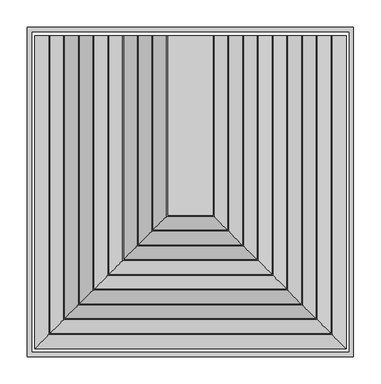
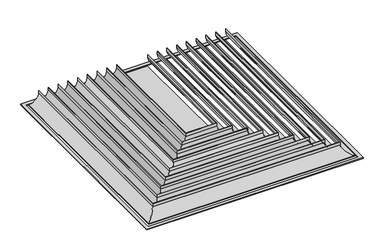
"""IFC4 building model written with IfcOpenShell, lengths in millimetres: air terminal geometry."""

from ifc_helpers import new_model, si_unit, frame, origin, place, context, project, spatial, polyline, circle_curve, ellipse_curve, outline, extrude, source, transform, mapped, element, save
from ifc_brep_helpers import plane_surface, cylinder_surface, revolved_surface, advanced_brep


def air_terminal_0466a51b(model_context):
    return source(origin(), model_context, "Body", "SolidModel", [
        extrude(outline(polyline([(42.0, 578.8125856), (42.0, 249.1874144), (-42.0, 249.1874144), (-42.0, 578.8125856), (42.0, 578.8125856)])), frame((0.0, 0.0, 1.0), z_axis=(0.0, 0.0, 1.0), x_axis=(1.0, 0.0, 0.0)), (0.0, 0.0, 1.0), 1.0025269),
        advanced_brep(
        [(-285.6874144, 578.8125856, 1.0), (-285.6874144, 578.8125856, 2.0025269), (-259.0, 578.8125856, 26.77286), (-259.0, 578.8125856, 35.0), (-258.0, 578.8125856, 35.0), (-258.0, 578.8125856, 26.7), (285.6874144, 5.5, 2.0025269), (285.6874144, 5.5, 1.0), (285.6874144, 578.8125856, 1.0), (285.6874144, 578.8125856, 2.0025269), (259.0, 32.1874144, 26.77286), (259.0, 578.8125856, 26.77286), (259.0, 32.1874144, 35.0), (259.0, 578.8125856, 35.0), (258.0, 33.1874144, 26.7), (258.0, 33.1874144, 35.0), (258.0, 578.8125856, 35.0), (258.0, 578.8125856, 26.7), (-285.6874144, 5.5, 1.0), (-285.6874144, 5.5, 2.0025269), (-259.0, 32.1874144, 26.77286), (-259.0, 32.1874144, 35.0), (-258.0, 33.1874144, 35.0), (-258.0, 33.1874144, 26.7)],
        [
            (0, 1),
            (1, 2, circle_curve(frame((-287.7874144, 578.8125856, 31.0266548), z_axis=(0.0, -1.0, 0.0), x_axis=(1.0, 0.0, 0.0)), 29.1)),
            (2, 3),
            (3, 4),
            (4, 5),
            (5, 0, circle_curve(frame((-287.7874144, 578.8125856, 31.0266548), z_axis=(0.0, 1.0, 0.0), x_axis=(1.0, 0.0, 0.0)), 30.1)),
            (6, 7),
            (7, 8),
            (8, 9),
            (9, 6),
            (10, 6, ellipse_curve(frame((287.7874144, 3.4, 31.0266548), z_axis=(-0.7071067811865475, -0.7071067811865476, 0.0), x_axis=(-0.7071067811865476, 0.7071067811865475, 0.0)), 41.1536147, 29.1)),
            (9, 11, circle_curve(frame((287.7874144, 578.8125856, 31.0266548), z_axis=(0.0, 1.0, 0.0), x_axis=(-1.0, 0.0, 0.0)), 29.1)),
            (11, 10),
            (12, 10),
            (11, 13),
            (13, 12),
            (14, 15),
            (15, 16),
            (16, 17),
            (17, 14),
            (7, 14, ellipse_curve(frame((287.7874144, 3.4, 31.0266548), z_axis=(0.7071067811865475, 0.7071067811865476, 0.0), x_axis=(0.7071067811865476, -0.7071067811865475, 0.0)), 42.5678282, 30.1)),
            (17, 8, circle_curve(frame((287.7874144, 578.8125856, 31.0266548), z_axis=(0.0, -1.0, 0.0), x_axis=(-1.0, 0.0, 0.0)), 30.1)),
            (0, 18),
            (18, 19),
            (19, 1),
            (19, 20, ellipse_curve(frame((-287.7874144, 3.4, 31.0266548), z_axis=(0.7071067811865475, -0.7071067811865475, 0.0), x_axis=(-0.7071067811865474, -0.7071067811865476, 0.0)), 41.1536147, 29.1)),
            (20, 2),
            (20, 21),
            (21, 3),
            (21, 12),
            (13, 16),
            (15, 22),
            (22, 4),
            (22, 23),
            (23, 5),
            (23, 18, ellipse_curve(frame((-287.7874144, 3.4, 31.0266548), z_axis=(-0.7071067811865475, 0.7071067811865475, 0.0), x_axis=(0.7071067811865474, 0.7071067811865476, 0.0)), 42.5678282, 30.1)),
            (18, 7),
            (6, 19),
            (10, 20),
            (14, 23),
        ],
        [
            plane_surface(frame((-258.0, 578.8125856, 0.0), z_axis=(0.0, 1.0, 0.0), x_axis=(0.0, 0.0, 1.0))),
            plane_surface(frame((285.6874144, 5.5, 1.0), z_axis=(1.0, 0.0, 0.0), x_axis=(0.0, 1.0, 0.0))),
            revolved_surface(polyline([(258.68741439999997, 578.8125856, 31.0266548), (258.68741439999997, -25.70000002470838, 31.0266548)]), (287.7874144, 33.1874144, 31.0266548), (0.0, 1.0, 0.0)),
            plane_surface(frame((259.0, 32.1874144, 26.77286), z_axis=(1.0, 0.0, 0.0), x_axis=(0.0, 1.0, 0.0))),
            plane_surface(frame((258.0, 33.1874144, 35.0), z_axis=(-1.0, 0.0, 0.0), x_axis=(0.0, 1.0, 0.0))),
            cylinder_surface(frame((287.7874144, 33.1874144, 31.0266548), z_axis=(0.0, -1.0, 0.0), x_axis=(-1.0, 0.0, 0.0)), 30.1),
            plane_surface(frame((-285.6874144, 578.8125856, 1.0), z_axis=(-1.0, 0.0, 0.0), x_axis=(0.0, -1.0, 0.0))),
            revolved_surface(polyline([(-258.68741439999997, -25.7000000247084, 31.0266548), (-258.68741439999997, 578.8125856, 31.0266548)]), (-287.7874144, 578.8125856, 31.0266548), (0.0, -1.0, 0.0)),
            plane_surface(frame((-259.0, 578.8125856, 26.77286), z_axis=(-1.0, 0.0, 0.0), x_axis=(0.0, -1.0, 0.0))),
            plane_surface(frame((-259.0, 578.8125856, 35.0), z_axis=(0.0, 0.0, 1.0), x_axis=(0.0, -1.0, 0.0))),
            plane_surface(frame((-258.0, 578.8125856, 35.0), z_axis=(1.0, 0.0, 0.0), x_axis=(0.0, -1.0, 0.0))),
            cylinder_surface(frame((-287.7874144, 578.8125856, 31.0266548), z_axis=(0.0, 1.0, 0.0), x_axis=(1.0, 0.0, 0.0)), 30.1),
            plane_surface(frame((258.0, 578.8125856, 0.0), z_axis=(0.0, 1.0, 0.0), x_axis=(0.0, 0.0, 1.0))),
            plane_surface(frame((-285.6874144, 5.5, 1.0), z_axis=(0.0, -1.0, 0.0), x_axis=(1.0, 0.0, 0.0))),
            revolved_surface(polyline([(316.88741442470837, 32.5, 31.0266548), (-316.88741442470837, 32.5, 31.0266548)]), (-258.0, 3.4, 31.0266548), (1.0, 0.0, 0.0)),
            plane_surface(frame((-259.0, 32.1874144, 26.77286), z_axis=(0.0, -1.0, 0.0), x_axis=(1.0, 0.0, 0.0))),
            plane_surface(frame((-258.0, 33.1874144, 35.0), z_axis=(0.0, 1.0, 0.0), x_axis=(1.0, 0.0, 0.0))),
            cylinder_surface(frame((-258.0, 3.4, 31.0266548), z_axis=(-1.0, 0.0, 0.0), x_axis=(0.0, 1.0, 0.0)), 30.1),
        ],
        [
            (0, [[1, 2, 3, 4, 5, 6]]),
            (1, [[7, 8, 9, 10]]),
            (2, [[11, -10, 12, 13]]),
            (3, [[14, -13, 15, 16]]),
            (4, [[17, 18, 19, 20]]),
            (5, [[21, -20, 22, -8]]),
            (6, [[-1, 23, 24, 25]]),
            (7, [[-2, -25, 26, 27]]),
            (8, [[-3, -27, 28, 29]]),
            (9, [[-4, -29, 30, -16, 31, -18, 32, 33]]),
            (10, [[-5, -33, 34, 35]]),
            (11, [[-6, -35, 36, -23]]),
            (12, [[-22, -19, -31, -15, -12, -9]]),
            (13, [[-24, 37, -7, 38]]),
            (14, [[-26, -38, -11, 39]]),
            (15, [[-28, -39, -14, -30]]),
            (16, [[-34, -32, -17, 40]]),
            (17, [[-36, -40, -21, -37]]),
        ],
    ),
        advanced_brep(
        [(-258.6874144, 578.8125856, 1.0), (-258.6874144, 578.8125856, 2.0025269), (-232.0, 578.8125856, 26.77286), (-232.0, 578.8125856, 35.0), (-231.0, 578.8125856, 35.0), (-231.0, 578.8125856, 26.7), (-258.6874144, 32.5, 1.0), (-258.6874144, 32.5, 2.0025269), (-232.0, 59.1874144, 26.77286), (-232.0, 59.1874144, 35.0), (232.0, 59.1874144, 35.0), (232.0, 578.8125856, 35.0), (231.0, 578.8125856, 35.0), (231.0, 60.1874144, 35.0), (-231.0, 60.1874144, 35.0), (-231.0, 60.1874144, 26.7), (258.6874144, 32.5, 1.0), (258.6874144, 32.5, 2.0025269), (232.0, 59.1874144, 26.77286), (231.0, 60.1874144, 26.7), (258.6874144, 578.8125856, 1.0), (258.6874144, 578.8125856, 2.0025269), (232.0, 578.8125856, 26.77286), (231.0, 578.8125856, 26.7)],
        [
            (0, 1),
            (1, 2, circle_curve(frame((-260.7874144, 578.8125856, 31.0266548), z_axis=(0.0, -1.0, 0.0), x_axis=(1.0, 0.0, 0.0)), 29.1)),
            (2, 3),
            (3, 4),
            (4, 5),
            (5, 0, circle_curve(frame((-260.7874144, 578.8125856, 31.0266548), z_axis=(0.0, 1.0, 0.0), x_axis=(1.0, 0.0, 0.0)), 30.1)),
            (0, 6),
            (6, 7),
            (7, 1),
            (7, 8, ellipse_curve(frame((-260.7874144, 30.4, 31.0266548), z_axis=(0.7071067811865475, -0.7071067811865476, 0.0), x_axis=(-0.7071067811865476, -0.7071067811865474, 0.0)), 41.1536147, 29.1)),
            (8, 2),
            (8, 9),
            (9, 3),
            (9, 10),
            (10, 11),
            (11, 12),
            (12, 13),
            (13, 14),
            (14, 4),
            (14, 15),
            (15, 5),
            (15, 6, ellipse_curve(frame((-260.7874144, 30.4, 31.0266548), z_axis=(-0.7071067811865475, 0.7071067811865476, 0.0), x_axis=(0.7071067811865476, 0.7071067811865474, 0.0)), 42.5678282, 30.1)),
            (6, 16),
            (16, 17),
            (17, 7),
            (17, 18, ellipse_curve(frame((260.7874144, 30.4, 31.0266548), z_axis=(0.7071067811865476, 0.7071067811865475, 0.0), x_axis=(0.7071067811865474, -0.7071067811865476, 0.0)), 41.1536147, 29.1)),
            (18, 8),
            (18, 10),
            (13, 19),
            (19, 15),
            (19, 16, ellipse_curve(frame((260.7874144, 30.4, 31.0266548), z_axis=(-0.7071067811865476, -0.7071067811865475, 0.0), x_axis=(-0.7071067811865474, 0.7071067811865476, 0.0)), 42.5678282, 30.1)),
            (16, 20),
            (20, 21),
            (21, 17),
            (21, 22, circle_curve(frame((260.7874144, 578.8125856, 31.0266548), z_axis=(0.0, 1.0, 0.0), x_axis=(-1.0, 0.0, 0.0)), 29.1)),
            (22, 18),
            (22, 11),
            (12, 23),
            (23, 19),
            (23, 20, circle_curve(frame((260.7874144, 578.8125856, 31.0266548), z_axis=(0.0, -1.0, 0.0), x_axis=(-1.0, 0.0, 0.0)), 30.1)),
        ],
        [
            plane_surface(frame((-231.0, 578.8125856, 0.0), z_axis=(0.0, 1.0, 0.0), x_axis=(0.0, 0.0, 1.0))),
            plane_surface(frame((-258.6874144, 578.8125856, 1.0), z_axis=(-1.0, 0.0, 0.0), x_axis=(0.0, -1.0, 0.0))),
            revolved_surface(polyline([(-231.6874144, 1.2999999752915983, 31.0266548), (-231.6874144, 578.8125856, 31.0266548)]), (-260.7874144, 578.8125856, 31.0266548), (0.0, -1.0, 0.0)),
            plane_surface(frame((-232.0, 578.8125856, 26.77286), z_axis=(-1.0, 0.0, 0.0), x_axis=(0.0, -1.0, 0.0))),
            plane_surface(frame((-232.0, 578.8125856, 35.0), z_axis=(0.0, 0.0, 1.0), x_axis=(0.0, -1.0, 0.0))),
            plane_surface(frame((-231.0, 578.8125856, 35.0), z_axis=(1.0, 0.0, 0.0), x_axis=(0.0, -1.0, 0.0))),
            cylinder_surface(frame((-260.7874144, 578.8125856, 31.0266548), z_axis=(0.0, 1.0, 0.0), x_axis=(1.0, 0.0, 0.0)), 30.1),
            plane_surface(frame((-258.6874144, 32.5, 1.0), z_axis=(0.0, -1.0, 0.0), x_axis=(1.0, 0.0, 0.0))),
            revolved_surface(polyline([(289.88741442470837, 59.5, 31.0266548), (-289.88741442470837, 59.5, 31.0266548)]), (-231.0, 30.4, 31.0266548), (1.0, 0.0, 0.0)),
            plane_surface(frame((-232.0, 59.1874144, 26.77286), z_axis=(0.0, -1.0, 0.0), x_axis=(1.0, 0.0, 0.0))),
            plane_surface(frame((-231.0, 60.1874144, 35.0), z_axis=(0.0, 1.0, 0.0), x_axis=(1.0, 0.0, 0.0))),
            cylinder_surface(frame((-231.0, 30.4, 31.0266548), z_axis=(-1.0, 0.0, 0.0), x_axis=(0.0, 1.0, 0.0)), 30.1),
            plane_surface(frame((258.6874144, 32.5, 1.0), z_axis=(1.0, 0.0, 0.0), x_axis=(0.0, 1.0, 0.0))),
            revolved_surface(polyline([(231.6874144, 578.8125856, 31.0266548), (231.6874144, 1.2999999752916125, 31.0266548)]), (260.7874144, 60.1874144, 31.0266548), (0.0, 1.0, 0.0)),
            plane_surface(frame((232.0, 59.1874144, 26.77286), z_axis=(1.0, 0.0, 0.0), x_axis=(0.0, 1.0, 0.0))),
            plane_surface(frame((231.0, 60.1874144, 35.0), z_axis=(-1.0, 0.0, 0.0), x_axis=(0.0, 1.0, 0.0))),
            cylinder_surface(frame((260.7874144, 60.1874144, 31.0266548), z_axis=(0.0, -1.0, 0.0), x_axis=(-1.0, 0.0, 0.0)), 30.1),
            plane_surface(frame((231.0, 578.8125856, 0.0), z_axis=(0.0, 1.0, 0.0), x_axis=(0.0, 0.0, 1.0))),
        ],
        [
            (0, [[1, 2, 3, 4, 5, 6]]),
            (1, [[-1, 7, 8, 9]]),
            (2, [[-2, -9, 10, 11]]),
            (3, [[-3, -11, 12, 13]]),
            (4, [[-4, -13, 14, 15, 16, 17, 18, 19]]),
            (5, [[-5, -19, 20, 21]]),
            (6, [[-6, -21, 22, -7]]),
            (7, [[-8, 23, 24, 25]]),
            (8, [[-10, -25, 26, 27]]),
            (9, [[-12, -27, 28, -14]]),
            (10, [[-20, -18, 29, 30]]),
            (11, [[-22, -30, 31, -23]]),
            (12, [[-24, 32, 33, 34]]),
            (13, [[-26, -34, 35, 36]]),
            (14, [[-28, -36, 37, -15]]),
            (15, [[-29, -17, 38, 39]]),
            (16, [[-31, -39, 40, -32]]),
            (17, [[-40, -38, -16, -37, -35, -33]]),
        ],
    ),
        advanced_brep(
        [(231.6874144, 578.8125856, 1.0), (204.0, 578.8125856, 26.7), (204.0, 578.8125856, 35.0), (205.0, 578.8125856, 35.0), (205.0, 578.8125856, 26.77286), (231.6874144, 578.8125856, 2.0025269), (231.6874144, 59.5, 1.0), (204.0, 87.1874144, 26.7), (204.0, 87.1874144, 35.0), (-204.0, 87.1874144, 35.0), (-204.0, 578.8125856, 35.0), (-205.0, 578.8125856, 35.0), (-205.0, 86.1874144, 35.0), (205.0, 86.1874144, 35.0), (205.0, 86.1874144, 26.77286), (231.6874144, 59.5, 2.0025269), (-231.6874144, 59.5, 1.0), (-204.0, 87.1874144, 26.7), (-205.0, 86.1874144, 26.77286), (-231.6874144, 59.5, 2.0025269), (-231.6874144, 578.8125856, 1.0), (-204.0, 578.8125856, 26.7), (-205.0, 578.8125856, 26.77286), (-231.6874144, 578.8125856, 2.0025269)],
        [
            (0, 1, circle_curve(frame((233.7874144, 578.8125856, 31.0266548), z_axis=(0.0, 1.0, 0.0), x_axis=(1.0, 0.0, 0.0)), 30.1)),
            (1, 2),
            (2, 3),
            (3, 4),
            (4, 5, circle_curve(frame((233.7874144, 578.8125856, 31.0266548), z_axis=(0.0, -1.0, 0.0), x_axis=(1.0, 0.0, 0.0)), 29.1)),
            (5, 0),
            (0, 6),
            (6, 7, ellipse_curve(frame((233.7874144, 57.4, 31.0266548), z_axis=(0.7071067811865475, 0.7071067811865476, 0.0), x_axis=(-0.7071067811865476, 0.7071067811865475, 0.0)), 42.5678282, 30.1)),
            (7, 1),
            (7, 8),
            (8, 2),
            (8, 9),
            (9, 10),
            (10, 11),
            (11, 12),
            (12, 13),
            (13, 3),
            (13, 14),
            (14, 4),
            (14, 15, ellipse_curve(frame((233.7874144, 57.4, 31.0266548), z_axis=(-0.7071067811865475, -0.7071067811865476, 0.0), x_axis=(0.7071067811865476, -0.7071067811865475, 0.0)), 41.1536147, 29.1)),
            (15, 5),
            (15, 6),
            (6, 16),
            (16, 17, ellipse_curve(frame((-233.7874144, 57.4, 31.0266548), z_axis=(0.7071067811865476, -0.7071067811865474, 0.0), x_axis=(0.7071067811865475, 0.7071067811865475, 0.0)), 42.5678282, 30.1)),
            (17, 7),
            (17, 9),
            (12, 18),
            (18, 14),
            (18, 19, ellipse_curve(frame((-233.7874144, 57.4, 31.0266548), z_axis=(-0.7071067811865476, 0.7071067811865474, 0.0), x_axis=(-0.7071067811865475, -0.7071067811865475, 0.0)), 41.1536147, 29.1)),
            (19, 15),
            (19, 16),
            (16, 20),
            (20, 21, circle_curve(frame((-233.7874144, 578.8125856, 31.0266548), z_axis=(0.0, -1.0, 0.0), x_axis=(-1.0, 0.0, 0.0)), 30.1)),
            (21, 17),
            (21, 10),
            (11, 22),
            (22, 18),
            (22, 23, circle_curve(frame((-233.7874144, 578.8125856, 31.0266548), z_axis=(0.0, 1.0, 0.0), x_axis=(-1.0, 0.0, 0.0)), 29.1)),
            (23, 19),
            (23, 20),
        ],
        [
            plane_surface(frame((204.0, 578.8125856, 0.0), z_axis=(0.0, 1.0, 0.0), x_axis=(0.0, 0.0, 1.0))),
            cylinder_surface(frame((233.7874144, 578.8125856, 31.0266548), z_axis=(0.0, 1.0, 0.0), x_axis=(1.0, 0.0, 0.0)), 30.1),
            plane_surface(frame((204.0, 578.8125856, 26.7), z_axis=(-1.0, 0.0, 0.0), x_axis=(0.0, -1.0, 0.0))),
            plane_surface(frame((204.0, 578.8125856, 35.0), z_axis=(0.0, 0.0, 1.0), x_axis=(0.0, -1.0, 0.0))),
            plane_surface(frame((205.0, 578.8125856, 35.0), z_axis=(1.0, 0.0, 0.0), x_axis=(0.0, -1.0, 0.0))),
            revolved_surface(polyline([(262.8874144, 28.2999999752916, 31.0266548), (262.8874144, 578.8125856, 31.0266548)]), (233.7874144, 578.8125856, 31.0266548), (0.0, -1.0, 0.0)),
            plane_surface(frame((231.6874144, 578.8125856, 2.0025269), z_axis=(1.0, 0.0, 0.0), x_axis=(0.0, -1.0, 0.0))),
            cylinder_surface(frame((204.0, 57.4, 31.0266548), z_axis=(1.0, 0.0, 0.0), x_axis=(0.0, -1.0, 0.0)), 30.1),
            plane_surface(frame((204.0, 87.1874144, 26.7), z_axis=(0.0, 1.0, 0.0), x_axis=(-1.0, 0.0, 0.0))),
            plane_surface(frame((205.0, 86.1874144, 35.0), z_axis=(0.0, -1.0, 0.0), x_axis=(-1.0, 0.0, 0.0))),
            revolved_surface(polyline([(-262.88741442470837, 28.299999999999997, 31.0266548), (262.88741442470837, 28.299999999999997, 31.0266548)]), (204.0, 57.4, 31.0266548), (-1.0, 0.0, 0.0)),
            plane_surface(frame((231.6874144, 59.5, 2.0025269), z_axis=(0.0, -1.0, 0.0), x_axis=(-1.0, 0.0, 0.0))),
            cylinder_surface(frame((-233.7874144, 87.1874144, 31.0266548), z_axis=(0.0, -1.0, 0.0), x_axis=(-1.0, 0.0, 0.0)), 30.1),
            plane_surface(frame((-204.0, 87.1874144, 26.7), z_axis=(1.0, 0.0, 0.0), x_axis=(0.0, 1.0, 0.0))),
            plane_surface(frame((-205.0, 86.1874144, 35.0), z_axis=(-1.0, 0.0, 0.0), x_axis=(0.0, 1.0, 0.0))),
            revolved_surface(polyline([(-262.8874144, 578.8125856, 31.0266548), (-262.8874144, 28.299999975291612, 31.0266548)]), (-233.7874144, 87.1874144, 31.0266548), (0.0, 1.0, 0.0)),
            plane_surface(frame((-231.6874144, 59.5, 2.0025269), z_axis=(-1.0, 0.0, 0.0), x_axis=(0.0, 1.0, 0.0))),
            plane_surface(frame((-204.0, 578.8125856, 0.0), z_axis=(0.0, 1.0, 0.0), x_axis=(0.0, 0.0, 1.0))),
        ],
        [
            (0, [[1, 2, 3, 4, 5, 6]]),
            (1, [[-1, 7, 8, 9]]),
            (2, [[-2, -9, 10, 11]]),
            (3, [[-3, -11, 12, 13, 14, 15, 16, 17]]),
            (4, [[-4, -17, 18, 19]]),
            (5, [[-5, -19, 20, 21]]),
            (6, [[-6, -21, 22, -7]]),
            (7, [[-8, 23, 24, 25]]),
            (8, [[-10, -25, 26, -12]]),
            (9, [[-18, -16, 27, 28]]),
            (10, [[-20, -28, 29, 30]]),
            (11, [[-22, -30, 31, -23]]),
            (12, [[-24, 32, 33, 34]]),
            (13, [[-26, -34, 35, -13]]),
            (14, [[-27, -15, 36, 37]]),
            (15, [[-29, -37, 38, 39]]),
            (16, [[-31, -39, 40, -32]]),
            (17, [[-40, -38, -36, -14, -35, -33]]),
        ],
    ),
        advanced_brep(
        [(204.6874144, 578.8125856, 1.0), (177.0, 578.8125856, 26.7), (177.0, 578.8125856, 35.0), (178.0, 578.8125856, 35.0), (178.0, 578.8125856, 26.77286), (204.6874144, 578.8125856, 2.0025269), (204.6874144, 86.5, 1.0), (177.0, 114.1874144, 26.7), (177.0, 114.1874144, 35.0), (-177.0, 114.1874144, 35.0), (-177.0, 578.8125856, 35.0), (-178.0, 578.8125856, 35.0), (-178.0, 113.1874144, 35.0), (178.0, 113.1874144, 35.0), (178.0, 113.1874144, 26.77286), (204.6874144, 86.5, 2.0025269), (-204.6874144, 86.5, 1.0), (-177.0, 114.1874144, 26.7), (-178.0, 113.1874144, 26.77286), (-204.6874144, 86.5, 2.0025269), (-204.6874144, 578.8125856, 1.0), (-177.0, 578.8125856, 26.7), (-178.0, 578.8125856, 26.77286), (-204.6874144, 578.8125856, 2.0025269)],
        [
            (0, 1, circle_curve(frame((206.7874144, 578.8125856, 31.0266548), z_axis=(0.0, 1.0, 0.0), x_axis=(1.0, 0.0, 0.0)), 30.1)),
            (1, 2),
            (2, 3),
            (3, 4),
            (4, 5, circle_curve(frame((206.7874144, 578.8125856, 31.0266548), z_axis=(0.0, -1.0, 0.0), x_axis=(1.0, 0.0, 0.0)), 29.1)),
            (5, 0),
            (0, 6),
            (6, 7, ellipse_curve(frame((206.7874144, 84.4, 31.0266548), z_axis=(0.7071067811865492, 0.7071067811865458, 0.0), x_axis=(-0.7071067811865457, 0.7071067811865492, 0.0)), 42.5678282, 30.1)),
            (7, 1),
            (7, 8),
            (8, 2),
            (8, 9),
            (9, 10),
            (10, 11),
            (11, 12),
            (12, 13),
            (13, 3),
            (13, 14),
            (14, 4),
            (14, 15, ellipse_curve(frame((206.7874144, 84.4, 31.0266548), z_axis=(-0.7071067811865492, -0.7071067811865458, 0.0), x_axis=(0.7071067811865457, -0.7071067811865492, 0.0)), 41.1536147, 29.1)),
            (15, 5),
            (15, 6),
            (6, 16),
            (16, 17, ellipse_curve(frame((-206.7874144, 84.4, 31.0266548), z_axis=(0.7071067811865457, -0.7071067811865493, 0.0), x_axis=(0.7071067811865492, 0.7071067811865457, 0.0)), 42.5678282, 30.1)),
            (17, 7),
            (17, 9),
            (12, 18),
            (18, 14),
            (18, 19, ellipse_curve(frame((-206.7874144, 84.4, 31.0266548), z_axis=(-0.7071067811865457, 0.7071067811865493, 0.0), x_axis=(-0.7071067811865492, -0.7071067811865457, 0.0)), 41.1536147, 29.1)),
            (19, 15),
            (19, 16),
            (16, 20),
            (20, 21, circle_curve(frame((-206.7874144, 578.8125856, 31.0266548), z_axis=(0.0, -1.0, 0.0), x_axis=(-1.0, 0.0, 0.0)), 30.1)),
            (21, 17),
            (21, 10),
            (11, 22),
            (22, 18),
            (22, 23, circle_curve(frame((-206.7874144, 578.8125856, 31.0266548), z_axis=(0.0, 1.0, 0.0), x_axis=(-1.0, 0.0, 0.0)), 29.1)),
            (23, 19),
            (23, 20),
        ],
        [
            plane_surface(frame((177.0, 578.8125856, 0.0), z_axis=(0.0, 1.0, 0.0), x_axis=(0.0, 0.0, 1.0))),
            cylinder_surface(frame((206.7874144, 578.8125856, 31.0266548), z_axis=(0.0, 1.0, 0.0), x_axis=(1.0, 0.0, 0.0)), 30.1),
            plane_surface(frame((177.0, 578.8125856, 26.7), z_axis=(-1.0, 0.0, 0.0), x_axis=(0.0, -1.0, 0.0))),
            plane_surface(frame((177.0, 578.8125856, 35.0), z_axis=(0.0, 0.0, 1.0), x_axis=(0.0, -1.0, 0.0))),
            plane_surface(frame((178.0, 578.8125856, 35.0), z_axis=(1.0, 0.0, 0.0), x_axis=(0.0, -1.0, 0.0))),
            revolved_surface(polyline([(235.88741439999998, 55.299999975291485, 31.0266548), (235.88741439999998, 578.8125856, 31.0266548)]), (206.7874144, 578.8125856, 31.0266548), (0.0, -1.0, 0.0)),
            plane_surface(frame((204.6874144, 578.8125856, 2.0025269), z_axis=(1.0, 0.0, 0.0), x_axis=(0.0, -1.0, 0.0))),
            cylinder_surface(frame((177.0, 84.4, 31.0266548), z_axis=(1.0, 0.0, 0.0), x_axis=(0.0, -1.0, 0.0)), 30.1),
            plane_surface(frame((177.0, 114.1874144, 26.7), z_axis=(0.0, 1.0, 0.0), x_axis=(-1.0, 0.0, 0.0))),
            plane_surface(frame((178.0, 113.1874144, 35.0), z_axis=(0.0, -1.0, 0.0), x_axis=(-1.0, 0.0, 0.0))),
            revolved_surface(polyline([(-235.88741442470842, 55.300000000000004, 31.0266548), (235.8874144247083, 55.300000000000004, 31.0266548)]), (177.0, 84.4, 31.0266548), (-1.0, 0.0, 0.0)),
            plane_surface(frame((204.6874144, 86.5, 2.0025269), z_axis=(0.0, -1.0, 0.0), x_axis=(-1.0, 0.0, 0.0))),
            cylinder_surface(frame((-206.7874144, 114.1874144, 31.0266548), z_axis=(0.0, -1.0, 0.0), x_axis=(-1.0, 0.0, 0.0)), 30.1),
            plane_surface(frame((-177.0, 114.1874144, 26.7), z_axis=(1.0, 0.0, 0.0), x_axis=(0.0, 1.0, 0.0))),
            plane_surface(frame((-178.0, 113.1874144, 35.0), z_axis=(-1.0, 0.0, 0.0), x_axis=(0.0, 1.0, 0.0))),
            revolved_surface(polyline([(-235.88741439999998, 578.8125856, 31.0266548), (-235.88741439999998, 55.2999999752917, 31.0266548)]), (-206.7874144, 114.1874144, 31.0266548), (0.0, 1.0, 0.0)),
            plane_surface(frame((-204.6874144, 86.5, 2.0025269), z_axis=(-1.0, 0.0, 0.0), x_axis=(0.0, 1.0, 0.0))),
            plane_surface(frame((-177.0, 578.8125856, 0.0), z_axis=(0.0, 1.0, 0.0), x_axis=(0.0, 0.0, 1.0))),
        ],
        [
            (0, [[1, 2, 3, 4, 5, 6]]),
            (1, [[-1, 7, 8, 9]]),
            (2, [[-2, -9, 10, 11]]),
            (3, [[-3, -11, 12, 13, 14, 15, 16, 17]]),
            (4, [[-4, -17, 18, 19]]),
            (5, [[-5, -19, 20, 21]]),
            (6, [[-6, -21, 22, -7]]),
            (7, [[-8, 23, 24, 25]]),
            (8, [[-10, -25, 26, -12]]),
            (9, [[-18, -16, 27, 28]]),
            (10, [[-20, -28, 29, 30]]),
            (11, [[-22, -30, 31, -23]]),
            (12, [[-24, 32, 33, 34]]),
            (13, [[-26, -34, 35, -13]]),
            (14, [[-27, -15, 36, 37]]),
            (15, [[-29, -37, 38, 39]]),
            (16, [[-31, -39, 40, -32]]),
            (17, [[-40, -38, -36, -14, -35, -33]]),
        ],
    ),
        advanced_brep(
        [(-150.5879226, 578.8125856, 1.0), (-150.5879226, 578.8125856, 2.0025269), (-123.9005082, 578.8125856, 26.77286), (-123.9005082, 578.8125856, 35.0), (-122.9005082, 578.8125856, 35.0), (-122.9005082, 578.8125856, 26.7), (-150.5879226, 140.5994918, 1.0), (-150.5879226, 140.5994918, 2.0025269), (-123.9005082, 167.2869062, 26.77286), (-123.9005082, 167.2869062, 35.0), (123.9005082, 167.2869062, 35.0), (123.9005082, 578.8125856, 35.0), (122.9005082, 578.8125856, 35.0), (122.9005082, 168.2869062, 35.0), (-122.9005082, 168.2869062, 35.0), (-122.9005082, 168.2869062, 26.7), (150.5879226, 140.5994918, 1.0), (150.5879226, 140.5994918, 2.0025269), (123.9005082, 167.2869062, 26.77286), (122.9005082, 168.2869062, 26.7), (150.5879226, 578.8125856, 1.0), (150.5879226, 578.8125856, 2.0025269), (123.9005082, 578.8125856, 26.77286), (122.9005082, 578.8125856, 26.7)],
        [
            (0, 1),
            (1, 2, circle_curve(frame((-152.6879226, 578.8125856, 31.0266548), z_axis=(0.0, -1.0, 0.0), x_axis=(1.0, 0.0, 0.0)), 29.1)),
            (2, 3),
            (3, 4),
            (4, 5),
            (5, 0, circle_curve(frame((-152.6879226, 578.8125856, 31.0266548), z_axis=(0.0, 1.0, 0.0), x_axis=(1.0, 0.0, 0.0)), 30.1)),
            (0, 6),
            (6, 7),
            (7, 1),
            (7, 8, ellipse_curve(frame((-152.6879226, 138.4994918, 31.0266548), z_axis=(0.7071067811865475, -0.7071067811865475, 0.0), x_axis=(-0.7071067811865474, -0.7071067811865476, 0.0)), 41.1536147, 29.1)),
            (8, 2),
            (8, 9),
            (9, 3),
            (9, 10),
            (10, 11),
            (11, 12),
            (12, 13),
            (13, 14),
            (14, 4),
            (14, 15),
            (15, 5),
            (15, 6, ellipse_curve(frame((-152.6879226, 138.4994918, 31.0266548), z_axis=(-0.7071067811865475, 0.7071067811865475, 0.0), x_axis=(0.7071067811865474, 0.7071067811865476, 0.0)), 42.5678282, 30.1)),
            (6, 16),
            (16, 17),
            (17, 7),
            (17, 18, ellipse_curve(frame((152.6879226, 138.4994918, 31.0266548), z_axis=(0.7071067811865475, 0.7071067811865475, 0.0), x_axis=(0.7071067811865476, -0.7071067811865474, 0.0)), 41.1536147, 29.1)),
            (18, 8),
            (18, 10),
            (13, 19),
            (19, 15),
            (19, 16, ellipse_curve(frame((152.6879226, 138.4994918, 31.0266548), z_axis=(-0.7071067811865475, -0.7071067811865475, 0.0), x_axis=(-0.7071067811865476, 0.7071067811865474, 0.0)), 42.5678282, 30.1)),
            (16, 20),
            (20, 21),
            (21, 17),
            (21, 22, circle_curve(frame((152.6879226, 578.8125856, 31.0266548), z_axis=(0.0, 1.0, 0.0), x_axis=(-1.0, 0.0, 0.0)), 29.1)),
            (22, 18),
            (22, 11),
            (12, 23),
            (23, 19),
            (23, 20, circle_curve(frame((152.6879226, 578.8125856, 31.0266548), z_axis=(0.0, -1.0, 0.0), x_axis=(-1.0, 0.0, 0.0)), 30.1)),
        ],
        [
            plane_surface(frame((-123.0, 578.8125856, 0.0), z_axis=(0.0, 1.0, 0.0), x_axis=(0.0, 0.0, 1.0))),
            plane_surface(frame((-150.5879226, 578.8125856, 1.0), z_axis=(-1.0, 0.0, 0.0), x_axis=(0.0, -1.0, 0.0))),
            revolved_surface(polyline([(-123.58792260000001, 109.39949177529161, 31.0266548), (-123.58792260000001, 578.8125856, 31.0266548)]), (-152.6879226, 578.8125856, 31.0266548), (0.0, -1.0, 0.0)),
            plane_surface(frame((-123.9005082, 578.8125856, 26.77286), z_axis=(-1.0, 0.0, 0.0), x_axis=(0.0, -1.0, 0.0))),
            plane_surface(frame((-123.9005082, 578.8125856, 35.0), z_axis=(0.0, 0.0, 1.0), x_axis=(0.0, -1.0, 0.0))),
            plane_surface(frame((-122.9005082, 578.8125856, 35.0), z_axis=(1.0, 0.0, 0.0), x_axis=(0.0, -1.0, 0.0))),
            cylinder_surface(frame((-152.6879226, 578.8125856, 31.0266548), z_axis=(0.0, 1.0, 0.0), x_axis=(1.0, 0.0, 0.0)), 30.1),
            plane_surface(frame((-150.5879226, 140.5994918, 1.0), z_axis=(0.0, -1.0, 0.0), x_axis=(1.0, 0.0, 0.0))),
            revolved_surface(polyline([(181.78792262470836, 167.59949179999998, 31.0266548), (-181.7879226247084, 167.59949179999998, 31.0266548)]), (-123.0, 138.4994918, 31.0266548), (1.0, 0.0, 0.0)),
            plane_surface(frame((-123.9005082, 167.2869062, 26.77286), z_axis=(0.0, -1.0, 0.0), x_axis=(1.0, 0.0, 0.0))),
            plane_surface(frame((-122.9005082, 168.2869062, 35.0), z_axis=(0.0, 1.0, 0.0), x_axis=(1.0, 0.0, 0.0))),
            cylinder_surface(frame((-123.0, 138.4994918, 31.0266548), z_axis=(-1.0, 0.0, 0.0), x_axis=(0.0, 1.0, 0.0)), 30.1),
            plane_surface(frame((150.5879226, 140.5994918, 1.0), z_axis=(1.0, 0.0, 0.0), x_axis=(0.0, 1.0, 0.0))),
            revolved_surface(polyline([(123.58792260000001, 578.8125856, 31.0266548), (123.58792260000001, 109.39949177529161, 31.0266548)]), (152.6879226, 168.1874144, 31.0266548), (0.0, 1.0, 0.0)),
            plane_surface(frame((123.9005082, 167.2869062, 26.77286), z_axis=(1.0, 0.0, 0.0), x_axis=(0.0, 1.0, 0.0))),
            plane_surface(frame((122.9005082, 168.2869062, 35.0), z_axis=(-1.0, 0.0, 0.0), x_axis=(0.0, 1.0, 0.0))),
            cylinder_surface(frame((152.6879226, 168.1874144, 31.0266548), z_axis=(0.0, -1.0, 0.0), x_axis=(-1.0, 0.0, 0.0)), 30.1),
            plane_surface(frame((123.0, 578.8125856, 0.0), z_axis=(0.0, 1.0, 0.0), x_axis=(0.0, 0.0, 1.0))),
        ],
        [
            (0, [[1, 2, 3, 4, 5, 6]]),
            (1, [[-1, 7, 8, 9]]),
            (2, [[-2, -9, 10, 11]]),
            (3, [[-3, -11, 12, 13]]),
            (4, [[-4, -13, 14, 15, 16, 17, 18, 19]]),
            (5, [[-5, -19, 20, 21]]),
            (6, [[-6, -21, 22, -7]]),
            (7, [[-8, 23, 24, 25]]),
            (8, [[-10, -25, 26, 27]]),
            (9, [[-12, -27, 28, -14]]),
            (10, [[-20, -18, 29, 30]]),
            (11, [[-22, -30, 31, -23]]),
            (12, [[-24, 32, 33, 34]]),
            (13, [[-26, -34, 35, 36]]),
            (14, [[-28, -36, 37, -15]]),
            (15, [[-29, -17, 38, 39]]),
            (16, [[-31, -39, 40, -32]]),
            (17, [[-40, -38, -16, -37, -35, -33]]),
        ],
    ),
        advanced_brep(
        [(-177.6874144, 578.8125856, 1.0), (-177.6874144, 578.8125856, 2.0025269), (-151.0, 578.8125856, 26.77286), (-151.0, 578.8125856, 35.0), (-150.0, 578.8125856, 35.0), (-150.0, 578.8125856, 26.7), (-177.6874144, 113.5, 1.0), (-177.6874144, 113.5, 2.0025269), (-151.0, 140.1874144, 26.77286), (-151.0, 140.1874144, 35.0), (151.0, 140.1874144, 35.0), (151.0, 578.8125856, 35.0), (150.0, 578.8125856, 35.0), (150.0, 141.1874144, 35.0), (-150.0, 141.1874144, 35.0), (-150.0, 141.1874144, 26.7), (177.6874144, 113.5, 1.0), (177.6874144, 113.5, 2.0025269), (151.0, 140.1874144, 26.77286), (150.0, 141.1874144, 26.7), (177.6874144, 578.8125856, 1.0), (177.6874144, 578.8125856, 2.0025269), (151.0, 578.8125856, 26.77286), (150.0, 578.8125856, 26.7)],
        [
            (0, 1),
            (1, 2, circle_curve(frame((-179.7874144, 578.8125856, 31.0266548), z_axis=(0.0, -1.0, 0.0), x_axis=(1.0, 0.0, 0.0)), 29.1)),
            (2, 3),
            (3, 4),
            (4, 5),
            (5, 0, circle_curve(frame((-179.7874144, 578.8125856, 31.0266548), z_axis=(0.0, 1.0, 0.0), x_axis=(1.0, 0.0, 0.0)), 30.1)),
            (0, 6),
            (6, 7),
            (7, 1),
            (7, 8, ellipse_curve(frame((-179.7874144, 111.4, 31.0266548), z_axis=(0.7071067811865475, -0.7071067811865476, 0.0), x_axis=(-0.7071067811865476, -0.7071067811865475, 0.0)), 41.1536147, 29.1)),
            (8, 2),
            (8, 9),
            (9, 3),
            (9, 10),
            (10, 11),
            (11, 12),
            (12, 13),
            (13, 14),
            (14, 4),
            (14, 15),
            (15, 5),
            (15, 6, ellipse_curve(frame((-179.7874144, 111.4, 31.0266548), z_axis=(-0.7071067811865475, 0.7071067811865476, 0.0), x_axis=(0.7071067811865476, 0.7071067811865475, 0.0)), 42.5678282, 30.1)),
            (6, 16),
            (16, 17),
            (17, 7),
            (17, 18, ellipse_curve(frame((179.7874144, 111.4, 31.0266548), z_axis=(0.7071067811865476, 0.7071067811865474, 0.0), x_axis=(0.7071067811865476, -0.7071067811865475, 0.0)), 41.1536147, 29.1)),
            (18, 8),
            (18, 10),
            (13, 19),
            (19, 15),
            (19, 16, ellipse_curve(frame((179.7874144, 111.4, 31.0266548), z_axis=(-0.7071067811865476, -0.7071067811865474, 0.0), x_axis=(-0.7071067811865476, 0.7071067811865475, 0.0)), 42.5678282, 30.1)),
            (16, 20),
            (20, 21),
            (21, 17),
            (21, 22, circle_curve(frame((179.7874144, 578.8125856, 31.0266548), z_axis=(0.0, 1.0, 0.0), x_axis=(-1.0, 0.0, 0.0)), 29.1)),
            (22, 18),
            (22, 11),
            (12, 23),
            (23, 19),
            (23, 20, circle_curve(frame((179.7874144, 578.8125856, 31.0266548), z_axis=(0.0, -1.0, 0.0), x_axis=(-1.0, 0.0, 0.0)), 30.1)),
        ],
        [
            plane_surface(frame((-150.0, 578.8125856, 0.0), z_axis=(0.0, 1.0, 0.0), x_axis=(0.0, 0.0, 1.0))),
            plane_surface(frame((-177.6874144, 578.8125856, 1.0), z_axis=(-1.0, 0.0, 0.0), x_axis=(0.0, -1.0, 0.0))),
            revolved_surface(polyline([(-150.6874144, 82.2999999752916, 31.0266548), (-150.6874144, 578.8125856, 31.0266548)]), (-179.7874144, 578.8125856, 31.0266548), (0.0, -1.0, 0.0)),
            plane_surface(frame((-151.0, 578.8125856, 26.77286), z_axis=(-1.0, 0.0, 0.0), x_axis=(0.0, -1.0, 0.0))),
            plane_surface(frame((-151.0, 578.8125856, 35.0), z_axis=(0.0, 0.0, 1.0), x_axis=(0.0, -1.0, 0.0))),
            plane_surface(frame((-150.0, 578.8125856, 35.0), z_axis=(1.0, 0.0, 0.0), x_axis=(0.0, -1.0, 0.0))),
            cylinder_surface(frame((-179.7874144, 578.8125856, 31.0266548), z_axis=(0.0, 1.0, 0.0), x_axis=(1.0, 0.0, 0.0)), 30.1),
            plane_surface(frame((-177.6874144, 113.5, 1.0), z_axis=(0.0, -1.0, 0.0), x_axis=(1.0, 0.0, 0.0))),
            revolved_surface(polyline([(208.88741442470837, 140.5, 31.0266548), (-208.88741442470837, 140.5, 31.0266548)]), (-150.0, 111.4, 31.0266548), (1.0, 0.0, 0.0)),
            plane_surface(frame((-151.0, 140.1874144, 26.77286), z_axis=(0.0, -1.0, 0.0), x_axis=(1.0, 0.0, 0.0))),
            plane_surface(frame((-150.0, 141.1874144, 35.0), z_axis=(0.0, 1.0, 0.0), x_axis=(1.0, 0.0, 0.0))),
            cylinder_surface(frame((-150.0, 111.4, 31.0266548), z_axis=(-1.0, 0.0, 0.0), x_axis=(0.0, 1.0, 0.0)), 30.1),
            plane_surface(frame((177.6874144, 113.5, 1.0), z_axis=(1.0, 0.0, 0.0), x_axis=(0.0, 1.0, 0.0))),
            revolved_surface(polyline([(150.6874144, 578.8125856, 31.0266548), (150.6874144, 82.29999997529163, 31.0266548)]), (179.7874144, 141.1874144, 31.0266548), (0.0, 1.0, 0.0)),
            plane_surface(frame((151.0, 140.1874144, 26.77286), z_axis=(1.0, 0.0, 0.0), x_axis=(0.0, 1.0, 0.0))),
            plane_surface(frame((150.0, 141.1874144, 35.0), z_axis=(-1.0, 0.0, 0.0), x_axis=(0.0, 1.0, 0.0))),
            cylinder_surface(frame((179.7874144, 141.1874144, 31.0266548), z_axis=(0.0, -1.0, 0.0), x_axis=(-1.0, 0.0, 0.0)), 30.1),
            plane_surface(frame((150.0, 578.8125856, 0.0), z_axis=(0.0, 1.0, 0.0), x_axis=(0.0, 0.0, 1.0))),
        ],
        [
            (0, [[1, 2, 3, 4, 5, 6]]),
            (1, [[-1, 7, 8, 9]]),
            (2, [[-2, -9, 10, 11]]),
            (3, [[-3, -11, 12, 13]]),
            (4, [[-4, -13, 14, 15, 16, 17, 18, 19]]),
            (5, [[-5, -19, 20, 21]]),
            (6, [[-6, -21, 22, -7]]),
            (7, [[-8, 23, 24, 25]]),
            (8, [[-10, -25, 26, 27]]),
            (9, [[-12, -27, 28, -14]]),
            (10, [[-20, -18, 29, 30]]),
            (11, [[-22, -30, 31, -23]]),
            (12, [[-24, 32, 33, 34]]),
            (13, [[-26, -34, 35, 36]]),
            (14, [[-28, -36, 37, -15]]),
            (15, [[-29, -17, 38, 39]]),
            (16, [[-31, -39, 40, -32]]),
            (17, [[-40, -38, -16, -37, -35, -33]]),
        ],
    ),
        advanced_brep(
        [(123.6874144, 578.8125856, 1.0), (96.0, 578.8125856, 26.7), (96.0, 578.8125856, 35.0), (97.0, 578.8125856, 35.0), (97.0, 578.8125856, 26.77286), (123.6874144, 578.8125856, 2.0025269), (123.6874144, 167.5, 1.0), (96.0, 195.1874144, 26.7), (96.0, 195.1874144, 35.0), (-96.0, 195.1874144, 35.0), (-96.0, 578.8125856, 35.0), (-97.0, 578.8125856, 35.0), (-97.0, 194.1874144, 35.0), (97.0, 194.1874144, 35.0), (97.0, 194.1874144, 26.77286), (123.6874144, 167.5, 2.0025269), (-123.6874144, 167.5, 1.0), (-96.0, 195.1874144, 26.7), (-97.0, 194.1874144, 26.77286), (-123.6874144, 167.5, 2.0025269), (-123.6874144, 578.8125856, 1.0), (-96.0, 578.8125856, 26.7), (-97.0, 578.8125856, 26.77286), (-123.6874144, 578.8125856, 2.0025269)],
        [
            (0, 1, circle_curve(frame((125.7874144, 578.8125856, 31.0266548), z_axis=(0.0, 1.0, 0.0), x_axis=(1.0, 0.0, 0.0)), 30.1)),
            (1, 2),
            (2, 3),
            (3, 4),
            (4, 5, circle_curve(frame((125.7874144, 578.8125856, 31.0266548), z_axis=(0.0, -1.0, 0.0), x_axis=(1.0, 0.0, 0.0)), 29.1)),
            (5, 0),
            (0, 6),
            (6, 7, ellipse_curve(frame((125.7874144, 165.4, 31.0266548), z_axis=(0.7071067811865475, 0.7071067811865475, 0.0), x_axis=(-0.7071067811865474, 0.7071067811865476, 0.0)), 42.5678282, 30.1)),
            (7, 1),
            (7, 8),
            (8, 2),
            (8, 9),
            (9, 10),
            (10, 11),
            (11, 12),
            (12, 13),
            (13, 3),
            (13, 14),
            (14, 4),
            (14, 15, ellipse_curve(frame((125.7874144, 165.4, 31.0266548), z_axis=(-0.7071067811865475, -0.7071067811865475, 0.0), x_axis=(0.7071067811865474, -0.7071067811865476, 0.0)), 41.1536147, 29.1)),
            (15, 5),
            (15, 6),
            (6, 16),
            (16, 17, ellipse_curve(frame((-125.7874144, 165.4, 31.0266548), z_axis=(0.7071067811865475, -0.7071067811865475, 0.0), x_axis=(0.7071067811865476, 0.7071067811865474, 0.0)), 42.5678282, 30.1)),
            (17, 7),
            (17, 9),
            (12, 18),
            (18, 14),
            (18, 19, ellipse_curve(frame((-125.7874144, 165.4, 31.0266548), z_axis=(-0.7071067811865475, 0.7071067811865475, 0.0), x_axis=(-0.7071067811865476, -0.7071067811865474, 0.0)), 41.1536147, 29.1)),
            (19, 15),
            (19, 16),
            (16, 20),
            (20, 21, circle_curve(frame((-125.7874144, 578.8125856, 31.0266548), z_axis=(0.0, -1.0, 0.0), x_axis=(-1.0, 0.0, 0.0)), 30.1)),
            (21, 17),
            (21, 10),
            (11, 22),
            (22, 18),
            (22, 23, circle_curve(frame((-125.7874144, 578.8125856, 31.0266548), z_axis=(0.0, 1.0, 0.0), x_axis=(-1.0, 0.0, 0.0)), 29.1)),
            (23, 19),
            (23, 20),
        ],
        [
            plane_surface(frame((96.0, 578.8125856, 0.0), z_axis=(0.0, 1.0, 0.0), x_axis=(0.0, 0.0, 1.0))),
            cylinder_surface(frame((125.7874144, 578.8125856, 31.0266548), z_axis=(0.0, 1.0, 0.0), x_axis=(1.0, 0.0, 0.0)), 30.1),
            plane_surface(frame((96.0, 578.8125856, 26.7), z_axis=(-1.0, 0.0, 0.0), x_axis=(0.0, -1.0, 0.0))),
            plane_surface(frame((96.0, 578.8125856, 35.0), z_axis=(0.0, 0.0, 1.0), x_axis=(0.0, -1.0, 0.0))),
            plane_surface(frame((97.0, 578.8125856, 35.0), z_axis=(1.0, 0.0, 0.0), x_axis=(0.0, -1.0, 0.0))),
            revolved_surface(polyline([(154.8874144, 136.2999999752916, 31.0266548), (154.8874144, 578.8125856, 31.0266548)]), (125.7874144, 578.8125856, 31.0266548), (0.0, -1.0, 0.0)),
            plane_surface(frame((123.6874144, 578.8125856, 2.0025269), z_axis=(1.0, 0.0, 0.0), x_axis=(0.0, -1.0, 0.0))),
            cylinder_surface(frame((96.0, 165.4, 31.0266548), z_axis=(1.0, 0.0, 0.0), x_axis=(0.0, -1.0, 0.0)), 30.1),
            plane_surface(frame((96.0, 195.1874144, 26.7), z_axis=(0.0, 1.0, 0.0), x_axis=(-1.0, 0.0, 0.0))),
            plane_surface(frame((97.0, 194.1874144, 35.0), z_axis=(0.0, -1.0, 0.0), x_axis=(-1.0, 0.0, 0.0))),
            revolved_surface(polyline([(-154.88741442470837, 136.3, 31.0266548), (154.88741442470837, 136.3, 31.0266548)]), (96.0, 165.4, 31.0266548), (-1.0, 0.0, 0.0)),
            plane_surface(frame((123.6874144, 167.5, 2.0025269), z_axis=(0.0, -1.0, 0.0), x_axis=(-1.0, 0.0, 0.0))),
            cylinder_surface(frame((-125.7874144, 195.1874144, 31.0266548), z_axis=(0.0, -1.0, 0.0), x_axis=(-1.0, 0.0, 0.0)), 30.1),
            plane_surface(frame((-96.0, 195.1874144, 26.7), z_axis=(1.0, 0.0, 0.0), x_axis=(0.0, 1.0, 0.0))),
            plane_surface(frame((-97.0, 194.1874144, 35.0), z_axis=(-1.0, 0.0, 0.0), x_axis=(0.0, 1.0, 0.0))),
            revolved_surface(polyline([(-154.8874144, 578.8125856, 31.0266548), (-154.8874144, 136.29999997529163, 31.0266548)]), (-125.7874144, 195.1874144, 31.0266548), (0.0, 1.0, 0.0)),
            plane_surface(frame((-123.6874144, 167.5, 2.0025269), z_axis=(-1.0, 0.0, 0.0), x_axis=(0.0, 1.0, 0.0))),
            plane_surface(frame((-96.0, 578.8125856, 0.0), z_axis=(0.0, 1.0, 0.0), x_axis=(0.0, 0.0, 1.0))),
        ],
        [
            (0, [[1, 2, 3, 4, 5, 6]]),
            (1, [[-1, 7, 8, 9]]),
            (2, [[-2, -9, 10, 11]]),
            (3, [[-3, -11, 12, 13, 14, 15, 16, 17]]),
            (4, [[-4, -17, 18, 19]]),
            (5, [[-5, -19, 20, 21]]),
            (6, [[-6, -21, 22, -7]]),
            (7, [[-8, 23, 24, 25]]),
            (8, [[-10, -25, 26, -12]]),
            (9, [[-18, -16, 27, 28]]),
            (10, [[-20, -28, 29, 30]]),
            (11, [[-22, -30, 31, -23]]),
            (12, [[-24, 32, 33, 34]]),
            (13, [[-26, -34, 35, -13]]),
            (14, [[-27, -15, 36, 37]]),
            (15, [[-29, -37, 38, 39]]),
            (16, [[-31, -39, 40, -32]]),
            (17, [[-40, -38, -36, -14, -35, -33]]),
        ],
    ),
        advanced_brep(
        [(96.6874144, 578.8125856, 1.0), (69.0, 578.8125856, 26.7), (69.0, 578.8125856, 35.0), (70.0, 578.8125856, 35.0), (70.0, 578.8125856, 26.77286), (96.6874144, 578.8125856, 2.0025269), (96.6874144, 194.5, 1.0), (69.0, 222.1874144, 26.7), (69.0, 222.1874144, 35.0), (-69.0, 222.1874144, 35.0), (-69.0, 578.8125856, 35.0), (-70.0, 578.8125856, 35.0), (-70.0, 221.1874144, 35.0), (70.0, 221.1874144, 35.0), (70.0, 221.1874144, 26.77286), (96.6874144, 194.5, 2.0025269), (-96.6874144, 194.5, 1.0), (-69.0, 222.1874144, 26.7), (-70.0, 221.1874144, 26.77286), (-96.6874144, 194.5, 2.0025269), (-96.6874144, 578.8125856, 1.0), (-69.0, 578.8125856, 26.7), (-70.0, 578.8125856, 26.77286), (-96.6874144, 578.8125856, 2.0025269)],
        [
            (0, 1, circle_curve(frame((98.7874144, 578.8125856, 31.0266548), z_axis=(0.0, 1.0, 0.0), x_axis=(1.0, 0.0, 0.0)), 30.1)),
            (1, 2),
            (2, 3),
            (3, 4),
            (4, 5, circle_curve(frame((98.7874144, 578.8125856, 31.0266548), z_axis=(0.0, -1.0, 0.0), x_axis=(1.0, 0.0, 0.0)), 29.1)),
            (5, 0),
            (0, 6),
            (6, 7, ellipse_curve(frame((98.7874144, 192.4, 31.0266548), z_axis=(0.7071067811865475, 0.7071067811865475, 0.0), x_axis=(-0.7071067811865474, 0.7071067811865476, 0.0)), 42.5678282, 30.1)),
            (7, 1),
            (7, 8),
            (8, 2),
            (8, 9),
            (9, 10),
            (10, 11),
            (11, 12),
            (12, 13),
            (13, 3),
            (13, 14),
            (14, 4),
            (14, 15, ellipse_curve(frame((98.7874144, 192.4, 31.0266548), z_axis=(-0.7071067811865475, -0.7071067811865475, 0.0), x_axis=(0.7071067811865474, -0.7071067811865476, 0.0)), 41.1536147, 29.1)),
            (15, 5),
            (15, 6),
            (6, 16),
            (16, 17, ellipse_curve(frame((-98.7874144, 192.4, 31.0266548), z_axis=(0.7071067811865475, -0.7071067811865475, 0.0), x_axis=(0.7071067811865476, 0.7071067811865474, 0.0)), 42.5678282, 30.1)),
            (17, 7),
            (17, 9),
            (12, 18),
            (18, 14),
            (18, 19, ellipse_curve(frame((-98.7874144, 192.4, 31.0266548), z_axis=(-0.7071067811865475, 0.7071067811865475, 0.0), x_axis=(-0.7071067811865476, -0.7071067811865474, 0.0)), 41.1536147, 29.1)),
            (19, 15),
            (19, 16),
            (16, 20),
            (20, 21, circle_curve(frame((-98.7874144, 578.8125856, 31.0266548), z_axis=(0.0, -1.0, 0.0), x_axis=(-1.0, 0.0, 0.0)), 30.1)),
            (21, 17),
            (21, 10),
            (11, 22),
            (22, 18),
            (22, 23, circle_curve(frame((-98.7874144, 578.8125856, 31.0266548), z_axis=(0.0, 1.0, 0.0), x_axis=(-1.0, 0.0, 0.0)), 29.1)),
            (23, 19),
            (23, 20),
        ],
        [
            plane_surface(frame((69.0, 578.8125856, 0.0), z_axis=(0.0, 1.0, 0.0), x_axis=(0.0, 0.0, 1.0))),
            cylinder_surface(frame((98.7874144, 578.8125856, 31.0266548), z_axis=(0.0, 1.0, 0.0), x_axis=(1.0, 0.0, 0.0)), 30.1),
            plane_surface(frame((69.0, 578.8125856, 26.7), z_axis=(-1.0, 0.0, 0.0), x_axis=(0.0, -1.0, 0.0))),
            plane_surface(frame((69.0, 578.8125856, 35.0), z_axis=(0.0, 0.0, 1.0), x_axis=(0.0, -1.0, 0.0))),
            plane_surface(frame((70.0, 578.8125856, 35.0), z_axis=(1.0, 0.0, 0.0), x_axis=(0.0, -1.0, 0.0))),
            revolved_surface(polyline([(127.88741440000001, 163.2999999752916, 31.0266548), (127.88741440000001, 578.8125856, 31.0266548)]), (98.7874144, 578.8125856, 31.0266548), (0.0, -1.0, 0.0)),
            plane_surface(frame((96.6874144, 578.8125856, 2.0025269), z_axis=(1.0, 0.0, 0.0), x_axis=(0.0, -1.0, 0.0))),
            cylinder_surface(frame((69.0, 192.4, 31.0266548), z_axis=(1.0, 0.0, 0.0), x_axis=(0.0, -1.0, 0.0)), 30.1),
            plane_surface(frame((69.0, 222.1874144, 26.7), z_axis=(0.0, 1.0, 0.0), x_axis=(-1.0, 0.0, 0.0))),
            plane_surface(frame((70.0, 221.1874144, 35.0), z_axis=(0.0, -1.0, 0.0), x_axis=(-1.0, 0.0, 0.0))),
            revolved_surface(polyline([(-127.88741442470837, 163.3, 31.0266548), (127.88741442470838, 163.3, 31.0266548)]), (69.0, 192.4, 31.0266548), (-1.0, 0.0, 0.0)),
            plane_surface(frame((96.6874144, 194.5, 2.0025269), z_axis=(0.0, -1.0, 0.0), x_axis=(-1.0, 0.0, 0.0))),
            cylinder_surface(frame((-98.7874144, 222.1874144, 31.0266548), z_axis=(0.0, -1.0, 0.0), x_axis=(-1.0, 0.0, 0.0)), 30.1),
            plane_surface(frame((-69.0, 222.1874144, 26.7), z_axis=(1.0, 0.0, 0.0), x_axis=(0.0, 1.0, 0.0))),
            plane_surface(frame((-70.0, 221.1874144, 35.0), z_axis=(-1.0, 0.0, 0.0), x_axis=(0.0, 1.0, 0.0))),
            revolved_surface(polyline([(-127.88741440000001, 578.8125856, 31.0266548), (-127.88741440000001, 163.29999997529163, 31.0266548)]), (-98.7874144, 222.1874144, 31.0266548), (0.0, 1.0, 0.0)),
            plane_surface(frame((-96.6874144, 194.5, 2.0025269), z_axis=(-1.0, 0.0, 0.0), x_axis=(0.0, 1.0, 0.0))),
            plane_surface(frame((-69.0, 578.8125856, 0.0), z_axis=(0.0, 1.0, 0.0), x_axis=(0.0, 0.0, 1.0))),
        ],
        [
            (0, [[1, 2, 3, 4, 5, 6]]),
            (1, [[-1, 7, 8, 9]]),
            (2, [[-2, -9, 10, 11]]),
            (3, [[-3, -11, 12, 13, 14, 15, 16, 17]]),
            (4, [[-4, -17, 18, 19]]),
            (5, [[-5, -19, 20, 21]]),
            (6, [[-6, -21, 22, -7]]),
            (7, [[-8, 23, 24, 25]]),
            (8, [[-10, -25, 26, -12]]),
            (9, [[-18, -16, 27, 28]]),
            (10, [[-20, -28, 29, 30]]),
            (11, [[-22, -30, 31, -23]]),
            (12, [[-24, 32, 33, 34]]),
            (13, [[-26, -34, 35, -13]]),
            (14, [[-27, -15, 36, 37]]),
            (15, [[-29, -37, 38, 39]]),
            (16, [[-31, -39, 40, -32]]),
            (17, [[-40, -38, -36, -14, -35, -33]]),
        ],
    ),
        advanced_brep(
        [(70.0, 578.8125856, 1.0), (42.3125856, 578.8125856, 26.7), (42.3125856, 578.8125856, 35.0), (43.3125856, 578.8125856, 35.0), (43.3125856, 578.8125856, 26.77286), (70.0, 578.8125856, 2.0025269), (70.0, 221.1874144, 1.0), (42.3125856, 248.8748288, 26.7), (42.3125856, 248.8748288, 35.0), (-42.3125856, 248.8748288, 35.0), (-42.3125856, 578.8125856, 35.0), (-43.3125856, 578.8125856, 35.0), (-43.3125856, 247.8748288, 35.0), (43.3125856, 247.8748288, 35.0), (43.3125856, 247.8748288, 26.77286), (70.0, 221.1874144, 2.0025269), (-70.0, 221.1874144, 1.0), (-42.3125856, 248.8748288, 26.7), (-43.3125856, 247.8748288, 26.77286), (-70.0, 221.1874144, 2.0025269), (-70.0, 578.8125856, 1.0), (-42.3125856, 578.8125856, 26.7), (-43.3125856, 578.8125856, 26.77286), (-70.0, 578.8125856, 2.0025269)],
        [
            (0, 1, circle_curve(frame((72.1, 578.8125856, 31.0266548), z_axis=(0.0, 1.0, 0.0), x_axis=(1.0, 0.0, 0.0)), 30.1)),
            (1, 2),
            (2, 3),
            (3, 4),
            (4, 5, circle_curve(frame((72.1, 578.8125856, 31.0266548), z_axis=(0.0, -1.0, 0.0), x_axis=(1.0, 0.0, 0.0)), 29.1)),
            (5, 0),
            (0, 6),
            (6, 7, ellipse_curve(frame((72.1, 219.0874144, 31.0266548), z_axis=(0.7071067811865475, 0.7071067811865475, 0.0), x_axis=(-0.7071067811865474, 0.7071067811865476, 0.0)), 42.5678282, 30.1)),
            (7, 1),
            (7, 8),
            (8, 2),
            (8, 9),
            (9, 10),
            (10, 11),
            (11, 12),
            (12, 13),
            (13, 3),
            (13, 14),
            (14, 4),
            (14, 15, ellipse_curve(frame((72.1, 219.0874144, 31.0266548), z_axis=(-0.7071067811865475, -0.7071067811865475, 0.0), x_axis=(0.7071067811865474, -0.7071067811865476, 0.0)), 41.1536147, 29.1)),
            (15, 5),
            (15, 6),
            (6, 16),
            (16, 17, ellipse_curve(frame((-72.1, 219.0874144, 31.0266548), z_axis=(0.7071067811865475, -0.7071067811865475, 0.0), x_axis=(0.7071067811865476, 0.7071067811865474, 0.0)), 42.5678282, 30.1)),
            (17, 7),
            (17, 9),
            (12, 18),
            (18, 14),
            (18, 19, ellipse_curve(frame((-72.1, 219.0874144, 31.0266548), z_axis=(-0.7071067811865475, 0.7071067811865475, 0.0), x_axis=(-0.7071067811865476, -0.7071067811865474, 0.0)), 41.1536147, 29.1)),
            (19, 15),
            (19, 16),
            (16, 20),
            (20, 21, circle_curve(frame((-72.1, 578.8125856, 31.0266548), z_axis=(0.0, -1.0, 0.0), x_axis=(-1.0, 0.0, 0.0)), 30.1)),
            (21, 17),
            (21, 10),
            (11, 22),
            (22, 18),
            (22, 23, circle_curve(frame((-72.1, 578.8125856, 31.0266548), z_axis=(0.0, 1.0, 0.0), x_axis=(-1.0, 0.0, 0.0)), 29.1)),
            (23, 19),
            (23, 20),
        ],
        [
            plane_surface(frame((42.0, 578.8125856, 0.0), z_axis=(0.0, 1.0, 0.0), x_axis=(0.0, 0.0, 1.0))),
            cylinder_surface(frame((72.1, 578.8125856, 31.0266548), z_axis=(0.0, 1.0, 0.0), x_axis=(1.0, 0.0, 0.0)), 30.1),
            plane_surface(frame((42.3125856, 578.8125856, 26.7), z_axis=(-1.0, 0.0, 0.0), x_axis=(0.0, -1.0, 0.0))),
            plane_surface(frame((42.3125856, 578.8125856, 35.0), z_axis=(0.0, 0.0, 1.0), x_axis=(0.0, -1.0, 0.0))),
            plane_surface(frame((43.3125856, 578.8125856, 35.0), z_axis=(1.0, 0.0, 0.0), x_axis=(0.0, -1.0, 0.0))),
            revolved_surface(polyline([(101.19999999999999, 189.98741437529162, 31.0266548), (101.19999999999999, 578.8125856, 31.0266548)]), (72.1, 578.8125856, 31.0266548), (0.0, -1.0, 0.0)),
            plane_surface(frame((70.0, 578.8125856, 2.0025269), z_axis=(1.0, 0.0, 0.0), x_axis=(0.0, -1.0, 0.0))),
            cylinder_surface(frame((42.0, 219.0874144, 31.0266548), z_axis=(1.0, 0.0, 0.0), x_axis=(0.0, -1.0, 0.0)), 30.1),
            plane_surface(frame((42.3125856, 248.8748288, 26.7), z_axis=(0.0, 1.0, 0.0), x_axis=(-1.0, 0.0, 0.0))),
            plane_surface(frame((43.3125856, 247.8748288, 35.0), z_axis=(0.0, -1.0, 0.0), x_axis=(-1.0, 0.0, 0.0))),
            revolved_surface(polyline([(-101.20000002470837, 189.9874144, 31.0266548), (101.20000002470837, 189.9874144, 31.0266548)]), (42.0, 219.0874144, 31.0266548), (-1.0, 0.0, 0.0)),
            plane_surface(frame((70.0, 221.1874144, 2.0025269), z_axis=(0.0, -1.0, 0.0), x_axis=(-1.0, 0.0, 0.0))),
            cylinder_surface(frame((-72.1, 249.1874144, 31.0266548), z_axis=(0.0, -1.0, 0.0), x_axis=(-1.0, 0.0, 0.0)), 30.1),
            plane_surface(frame((-42.3125856, 248.8748288, 26.7), z_axis=(1.0, 0.0, 0.0), x_axis=(0.0, 1.0, 0.0))),
            plane_surface(frame((-43.3125856, 247.8748288, 35.0), z_axis=(-1.0, 0.0, 0.0), x_axis=(0.0, 1.0, 0.0))),
            revolved_surface(polyline([(-101.19999999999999, 578.8125856, 31.0266548), (-101.19999999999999, 189.98741437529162, 31.0266548)]), (-72.1, 249.1874144, 31.0266548), (0.0, 1.0, 0.0)),
            plane_surface(frame((-70.0, 221.1874144, 2.0025269), z_axis=(-1.0, 0.0, 0.0), x_axis=(0.0, 1.0, 0.0))),
            plane_surface(frame((-42.0, 578.8125856, 0.0), z_axis=(0.0, 1.0, 0.0), x_axis=(0.0, 0.0, 1.0))),
        ],
        [
            (0, [[1, 2, 3, 4, 5, 6]]),
            (1, [[-1, 7, 8, 9]]),
            (2, [[-2, -9, 10, 11]]),
            (3, [[-3, -11, 12, 13, 14, 15, 16, 17]]),
            (4, [[-4, -17, 18, 19]]),
            (5, [[-5, -19, 20, 21]]),
            (6, [[-6, -21, 22, -7]]),
            (7, [[-8, 23, 24, 25]]),
            (8, [[-10, -25, 26, -12]]),
            (9, [[-18, -16, 27, 28]]),
            (10, [[-20, -28, 29, 30]]),
            (11, [[-22, -30, 31, -23]]),
            (12, [[-24, 32, 33, 34]]),
            (13, [[-26, -34, 35, -13]]),
            (14, [[-27, -15, 36, 37]]),
            (15, [[-29, -37, 38, 39]]),
            (16, [[-31, -39, 40, -32]]),
            (17, [[-40, -38, -36, -14, -35, -33]]),
        ],
    ),
        extrude(outline(polyline([(299.0, 594.0), (299.0, -9.0), (-299.0, -9.0), (-299.0, 594.0), (299.0, 594.0)]), holes=[polyline([(290.0, 585.0), (-290.0, 585.0), (-290.0, 0.0), (290.0, 0.0), (290.0, 585.0)])]), frame((0.0, 0.0, -2.0), z_axis=(0.0, 0.0, 1.0), x_axis=(1.0, 0.0, 0.0)), (0.0, 0.0, 1.0), 2.0),
    ])


if __name__ == "__main__":
    model = new_model("IFC4")
    model_context = context("Model", 3, world=origin())
    ifc_project = project(units=[si_unit("LENGTHUNIT", "METRE", prefix="MILLI")], contexts=[model_context])
    site = spatial("IfcSite", under=ifc_project)
    building = spatial("IfcBuilding", under=site)
    placement = place(None, origin())
    air_terminal_shape = air_terminal_0466a51b(model_context)
    element("IfcAirTerminal", 1, at=placement, inside=building, context=model_context, shape_type="MappedRepresentation", body=[
        mapped(air_terminal_shape, transform((0.0, 0.0, 0.0), x_axis=(1.0, 0.0, 0.0), y_axis=(0.0, 1.0, 0.0), z_axis=(0.0, 0.0, 1.0))),
    ])
    save(model, "model.ifc")
